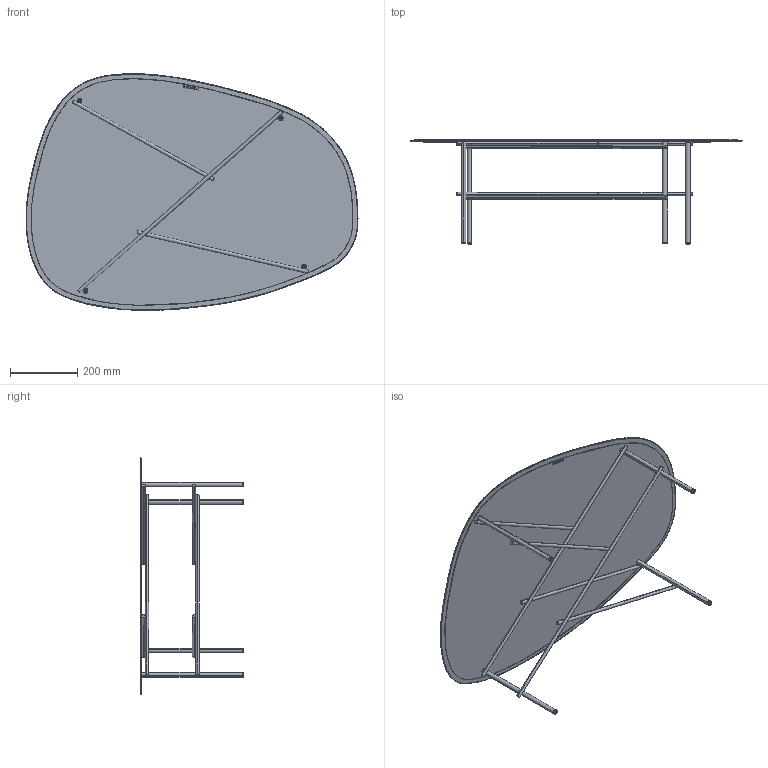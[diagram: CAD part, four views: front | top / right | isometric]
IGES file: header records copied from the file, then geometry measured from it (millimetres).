
Start section: SolidWorks IGES file using analytic representation for surfaces
Global section: file name: \\utenti\Dati Utenti\Tecnico\DC\2D - 3D per sito\3D\DeCastelli-3D-Syro XL 98.igs; native system: SolidWorks 2022; preprocessor: SolidWorks 2022; author: Simonep; date: 240729.120936; units: millimetre
Bounding box: 983.97 x 308.22 x 701.36 mm (x, y, z)
Surface area: 1821853.9 mm2 (no closed solid volume)
Topology: 0 solids, 0 shells, 91 faces, 1395 edges, 1387 vertices
Faces by surface type: bspline 63, revolution 28
